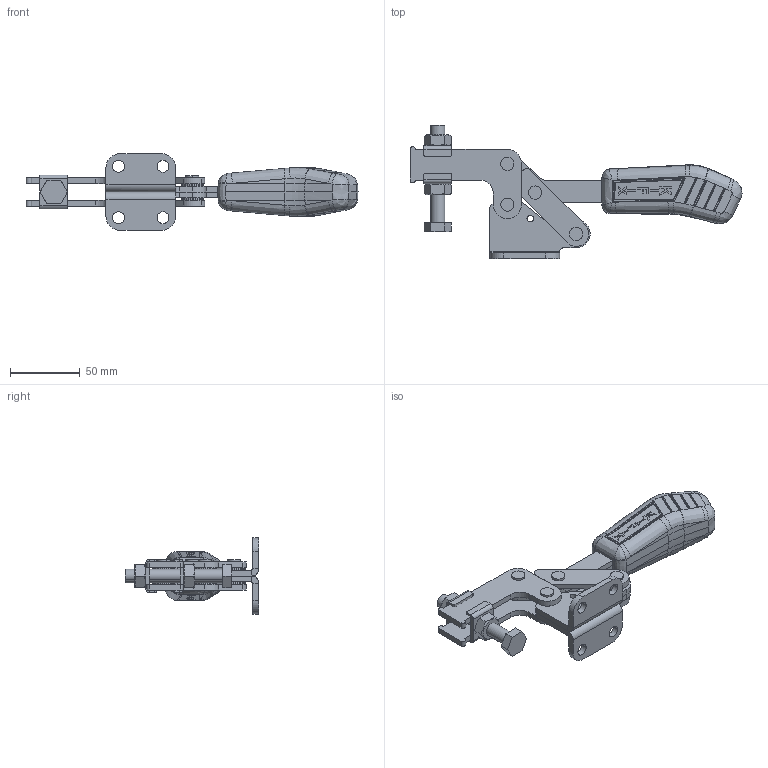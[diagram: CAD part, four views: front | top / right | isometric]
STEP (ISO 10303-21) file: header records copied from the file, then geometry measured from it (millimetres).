
FILE_DESCRIPTION (( 'STEP AP203' ), '1' );
FILE_NAME ('KF-531 DI.STEP', '2014-08-18T14:24:23', ( 'Ricardo' ), ( '' ), 'SwSTEP 2.0', 'SolidWorks 2013', '' );
FILE_SCHEMA (( 'CONFIG_CONTROL_DESIGN' ));
Length unit declared in the file: millimetre
Products named in the file (12): 11.50003; 02.12035_Esquerda; 17.50002; 01.10043; KF-531 DI; 03.13018; 08.10008; 06.50026; 07.60002; 14.10003; 12.50021; 02.12035_Direita
Assembly tree (26 placements, depth 2):
  KF-531 DI
    02.12035_Direita
    02.12035_Esquerda
    01.10043  x2
    03.13018  x2
    08.10008  x2
    06.50026  x4
    07.60002
    14.10003  x2
    12.50021
    11.50003  x2
    17.50002  x8
Bounding box: 238.69 x 95.84 x 55 mm (x, y, z)
Volume: 176888.8 mm3; surface area: 76879.9 mm2
Topology: 26 solids, 26 shells, 802 faces, 1958 edges, 1217 vertices
Faces by surface type: plane 270, cylinder 226, bspline 159, cone 92, sphere 52, torus 3
Entity records: 23173 total; most frequent: CARTESIAN_POINT 8839, ORIENTED_EDGE 2902, DIRECTION 2246, EDGE_CURVE 1451, VERTEX_POINT 916, AXIS2_PLACEMENT_3D 856, EDGE_LOOP 643, ADVANCED_FACE 580
